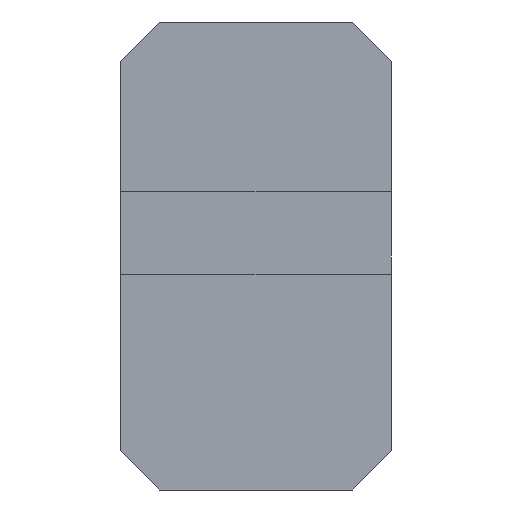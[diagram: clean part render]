
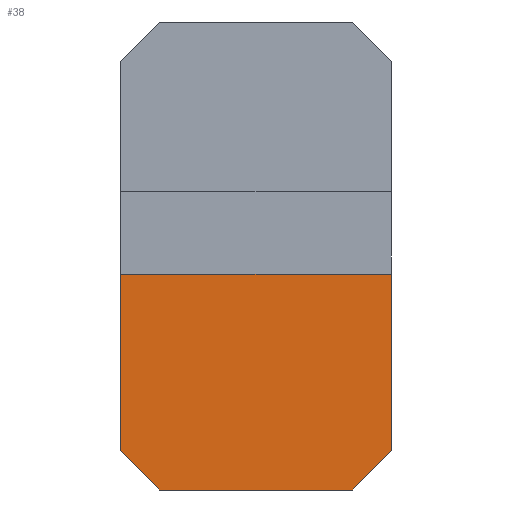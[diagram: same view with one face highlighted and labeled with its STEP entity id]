
A CAD part, front view. The second image highlights one B-rep face of the part: STEP entity #38.
In plain terms, the highlighted planar face has unit normal (0, -1, 0).
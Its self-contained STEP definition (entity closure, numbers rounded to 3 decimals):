
#38=ADVANCED_FACE('',(#119),#1323,.T.);
#119=FACE_OUTER_BOUND('',#200,.T.);
#200=EDGE_LOOP('',(#318,#319,#320,#321,#322,#323));
#318=ORIENTED_EDGE('',*,*,#742,.F.);
#319=ORIENTED_EDGE('',*,*,#752,.F.);
#320=ORIENTED_EDGE('',*,*,#727,.F.);
#321=ORIENTED_EDGE('',*,*,#732,.F.);
#322=ORIENTED_EDGE('',*,*,#734,.F.);
#323=ORIENTED_EDGE('',*,*,#753,.F.);
#727=EDGE_CURVE('',#1169,#1168,#948,.T.);
#732=EDGE_CURVE('',#1172,#1169,#953,.T.);
#734=EDGE_CURVE('',#1173,#1172,#955,.T.);
#742=EDGE_CURVE('',#1177,#1176,#963,.T.);
#752=EDGE_CURVE('',#1168,#1177,#973,.T.);
#753=EDGE_CURVE('',#1176,#1173,#974,.T.);
#948=B_SPLINE_CURVE_WITH_KNOTS('',1,(#2211,#2212),.UNSPECIFIED.,.F.,.F.,
(2,2),(4.,5.),.UNSPECIFIED.);
#953=B_SPLINE_CURVE_WITH_KNOTS('',1,(#2224,#2225,#2226),.UNSPECIFIED.,.F.,
 .F.,(2,1,2),(2.,3.,4.),.UNSPECIFIED.);
#955=B_SPLINE_CURVE_WITH_KNOTS('',1,(#2229,#2230),.UNSPECIFIED.,.F.,.F.,
(2,2),(1.,2.),.UNSPECIFIED.);
#963=B_SPLINE_CURVE_WITH_KNOTS('',1,(#2248,#2249),.UNSPECIFIED.,.F.,.F.,
(2,2),(-42.684,0.),.UNSPECIFIED.);
#973=B_SPLINE_CURVE_WITH_KNOTS('',1,(#2269,#2270),.UNSPECIFIED.,.F.,.F.,
(2,2),(5.,5.907),.UNSPECIFIED.);
#974=B_SPLINE_CURVE_WITH_KNOTS('',1,(#2271,#2272),.UNSPECIFIED.,.F.,.F.,
(2,2),(0.093,1.),.UNSPECIFIED.);
#1168=VERTEX_POINT('',#2048);
#1169=VERTEX_POINT('',#2049);
#1172=VERTEX_POINT('',#2052);
#1173=VERTEX_POINT('',#2053);
#1176=VERTEX_POINT('',#2056);
#1177=VERTEX_POINT('',#2057);
#1323=PLANE('',#1416);
#1416=AXIS2_PLACEMENT_3D('',#1568,#1492,$);
#1492=DIRECTION('',(0.,-1.,0.));
#1568=CARTESIAN_POINT('',(-21.342,-20.885,25.723));
#2048=CARTESIAN_POINT('',(-21.342,-20.885,-41.954));
#2049=CARTESIAN_POINT('',(-15.283,-20.885,-48.112));
#2052=CARTESIAN_POINT('',(15.283,-20.885,-48.112));
#2053=CARTESIAN_POINT('',(21.342,-20.885,-41.954));
#2056=CARTESIAN_POINT('',(21.342,-20.885,-14.07));
#2057=CARTESIAN_POINT('',(-21.342,-20.885,-14.07));
#2211=CARTESIAN_POINT('',(-15.283,-20.885,-48.112));
#2212=CARTESIAN_POINT('',(-21.342,-20.885,-41.954));
#2224=CARTESIAN_POINT('',(15.283,-20.885,-48.112));
#2225=CARTESIAN_POINT('',(0.,-20.885,-48.112));
#2226=CARTESIAN_POINT('',(-15.283,-20.885,-48.112));
#2229=CARTESIAN_POINT('',(21.342,-20.885,-41.954));
#2230=CARTESIAN_POINT('',(15.283,-20.885,-48.112));
#2248=CARTESIAN_POINT('',(-21.342,-20.885,-14.07));
#2249=CARTESIAN_POINT('',(21.342,-20.885,-14.07));
#2269=CARTESIAN_POINT('',(-21.342,-20.885,-41.954));
#2270=CARTESIAN_POINT('',(-21.342,-20.885,-14.07));
#2271=CARTESIAN_POINT('',(21.342,-20.885,-14.07));
#2272=CARTESIAN_POINT('',(21.342,-20.885,-41.954));
